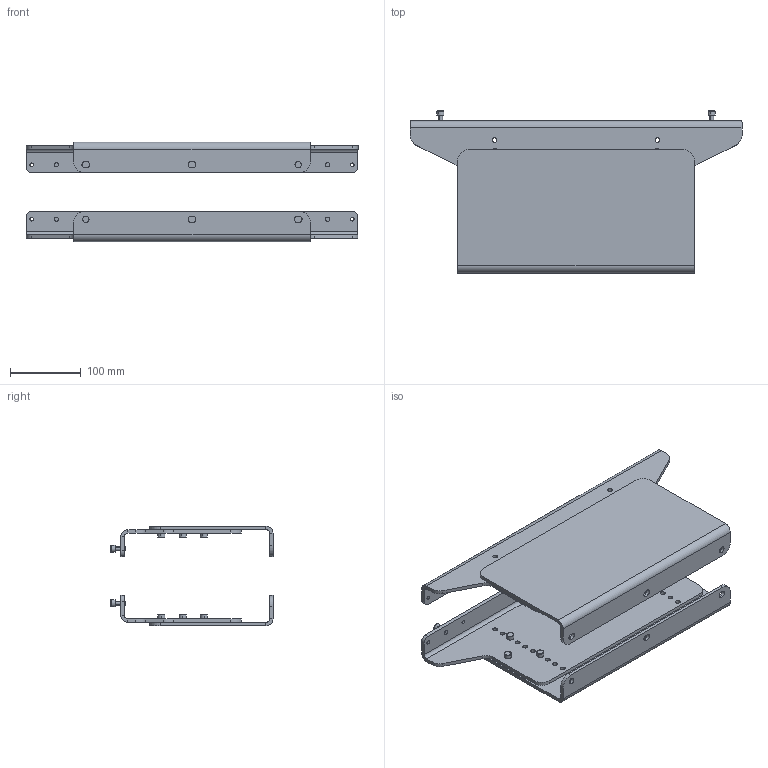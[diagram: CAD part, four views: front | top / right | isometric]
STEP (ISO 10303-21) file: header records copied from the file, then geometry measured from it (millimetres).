
FILE_DESCRIPTION (( 'STEP AP214' ), '1' );
FILE_NAME ('Asyril_MODULAR ASYFILL FIXATION KIT_000.105.533_(option)_ASYFILL-M.STEP', '2022-12-05T10:13:00', ( '%MACHINENAME%' ), ( 'CPA-GROUP.LOCAL' ), 'SwSTEP 2.0', 'SolidWorks 2019', '' );
FILE_SCHEMA (( 'AUTOMOTIVE_DESIGN' ));
Length unit declared in the file: millimetre
Products named in the file (3): Asyril_MODULAR HOPPER FIXATION KIT_000.105.533_(option)_M_BASE; Asyril_MODULAR ASYFILL FIXATION KIT_000.105.533_(option)_ASYFILL-M; Asyril_MODULAR HOPPER FIXATION KIT_000.105.533_(option)_M_FIXATION
Assembly tree (2 placements, depth 2):
  Asyril_MODULAR ASYFILL FIXATION KIT_000.105.533_(option)_ASYFILL-M
    Asyril_MODULAR HOPPER FIXATION KIT_000.105.533_(option)_M_BASE
    Asyril_MODULAR HOPPER FIXATION KIT_000.105.533_(option)_M_FIXATION
Bounding box: 469 x 229 x 141 mm (x, y, z)
Volume: 1461185.9 mm3; surface area: 615576.9 mm2
Topology: 4 solids, 4 shells, 344 faces, 836 edges, 536 vertices
Faces by surface type: cylinder 212, plane 100, torus 32
Entity records: 12228 total; most frequent: DIRECTION 2022, CARTESIAN_POINT 1721, ORIENTED_EDGE 1672, AXIS2_PLACEMENT_3D 837, EDGE_CURVE 836, VERTEX_POINT 536, CIRCLE 488, EDGE_LOOP 488
